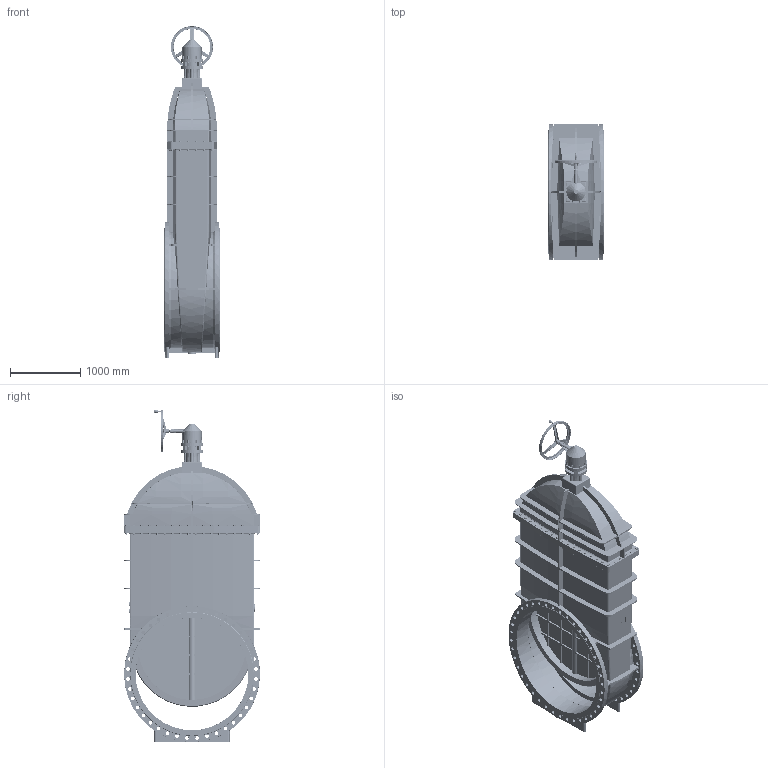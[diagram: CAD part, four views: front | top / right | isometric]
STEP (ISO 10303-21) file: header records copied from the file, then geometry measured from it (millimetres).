
FILE_DESCRIPTION(('STEP AP242'), '1');
FILE_NAME('青溻桄赅', '', ('UNSPECIFIED'), ('UNSPECIFIED'), 'C3D Converter', 'C3D Toolkit', '');
FILE_SCHEMA(('AP242_MANAGED_MODEL_BASED_3D_ENGINEERING_MIM_LF { 1 0 10303 442 1 1 4 }'));
Length unit declared in the file: millimetre
Assembly tree (291 placements, depth 2):
  (unnamed)
    (unnamed)
    (unnamed)
    (unnamed)
    (unnamed)  x2
    (unnamed)
    (unnamed)
    (unnamed)
    (unnamed)
    (unnamed)
    (unnamed)  x44
    (unnamed)  x88
    (unnamed)  x88
    (unnamed)  x44
    (unnamed)  x4
    (unnamed)  x8
    (unnamed)  x4
    (unnamed)
Bounding box: 790 x 1941 x 4713 mm (x, y, z)
Volume: 407966943.8 mm3; surface area: 52979278.8 mm2
Topology: 296 solids, 297 shells, 4437 faces, 10898 edges, 7143 vertices
Faces by surface type: plane 2489, cylinder 1016, cone 584, extrusion 167, torus 102, bspline 79
Full cylindrical faces by diameter (mm): 5 x4, 6 x23, 8 x24, 10 x4, 12 x8, 13 x8, 14 x4, 16 x12, 17.294 x44, 18 x4, 20 x49, 22 x220, 24 x4, 30 x44, 34 x88, 40 x1, 50 x80, 60 x3, 63 x9, 106.333 x5, 108.391 x1, 126 x1, 226.056 x2, 272.126 x1, 318.196 x3, 520 x1, 530 x1, 590 x1, 600 x1, 1535 x2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
Entity records: 91964 total; most frequent: CARTESIAN_POINT 35832, DIRECTION 9732, ORIENTED_EDGE 8851, EDGE_CURVE 4869, AXIS2_PLACEMENT_3D 3818, VERTEX_POINT 3757, EDGE_LOOP 2577, CIRCLE 2145
